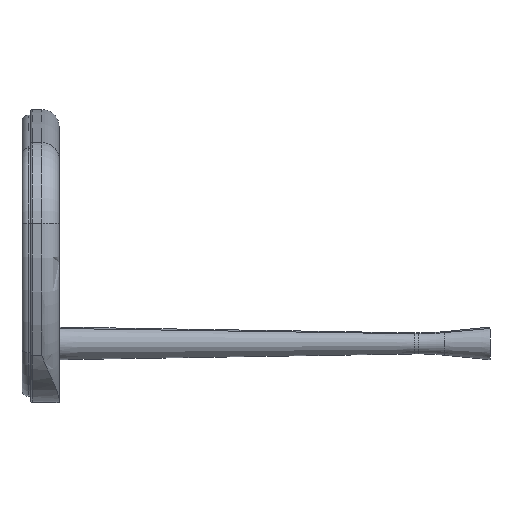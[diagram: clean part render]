
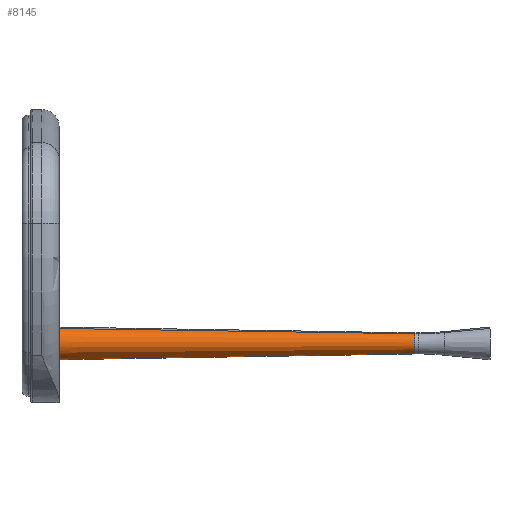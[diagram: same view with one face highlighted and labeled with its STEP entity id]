
A CAD part, left-side view. The second image highlights one B-rep face of the part: STEP entity #8145.
In plain terms, the highlighted conical face has half-angle 0.933 degrees and reference radius 12.283 mm.
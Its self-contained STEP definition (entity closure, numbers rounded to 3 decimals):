
#2 = EDGE_CURVE ( 'NONE', #4428, #617, #9360, .T. ) ;
#228 = ORIENTED_EDGE ( 'NONE', *, *, #10306, .F. ) ;
#263 = FACE_OUTER_BOUND ( 'NONE', #6073, .T. ) ;
#530 = CARTESIAN_POINT ( 'NONE',  ( 0., 87.409, 12.283 ) ) ;
#565 = AXIS2_PLACEMENT_3D ( 'NONE', #15500, #4712, #11879 ) ;
#617 = VERTEX_POINT ( 'NONE', #13902 ) ;
#1726 = LINE ( 'NONE', #530, #3129 ) ;
#2308 = CIRCLE ( 'NONE', #16163, 12.283 ) ;
#3129 = VECTOR ( 'NONE', #10656, 1000. ) ;
#3569 = DIRECTION ( 'NONE',  ( 0., 1., 0. ) ) ;
#3739 = VECTOR ( 'NONE', #7704, 1000. ) ;
#4408 = CARTESIAN_POINT ( 'NONE',  ( 0., 87.409, -12.283 ) ) ;
#4428 = VERTEX_POINT ( 'NONE', #17377 ) ;
#4712 = DIRECTION ( 'NONE',  ( 0., -1., 0. ) ) ;
#5274 = DIRECTION ( 'NONE',  ( 0., 0., -1. ) ) ;
#6073 = EDGE_LOOP ( 'NONE', ( #228, #9069, #9491, #15114 ) ) ;
#7011 = VERTEX_POINT ( 'NONE', #12574 ) ;
#7704 = DIRECTION ( 'NONE',  ( 0., 1., -0.016 ) ) ;
#7741 = DIRECTION ( 'NONE',  ( 0., 0., 1. ) ) ;
#8145 = ADVANCED_FACE ( 'NONE', ( #263 ), #9265, .T. ) ;
#9069 = ORIENTED_EDGE ( 'NONE', *, *, #15145, .F. ) ;
#9265 = CONICAL_SURFACE ( 'NONE', #10871, 12.283, 0.016 ) ;
#9360 = CIRCLE ( 'NONE', #565, 19. ) ;
#9451 = CARTESIAN_POINT ( 'NONE',  ( 0., 87.409, 0. ) ) ;
#9491 = ORIENTED_EDGE ( 'NONE', *, *, #13734, .T. ) ;
#10306 = EDGE_CURVE ( 'NONE', #11212, #617, #13668, .T. ) ;
#10656 = DIRECTION ( 'NONE',  ( 0., 1., 0.016 ) ) ;
#10871 = AXIS2_PLACEMENT_3D ( 'NONE', #14316, #3569, #7741 ) ;
#11212 = VERTEX_POINT ( 'NONE', #11991 ) ;
#11879 = DIRECTION ( 'NONE',  ( 0., 0., -1. ) ) ;
#11991 = CARTESIAN_POINT ( 'NONE',  ( 0., 87.409, -12.283 ) ) ;
#12574 = CARTESIAN_POINT ( 'NONE',  ( 0., 87.409, 12.283 ) ) ;
#13668 = LINE ( 'NONE', #4408, #3739 ) ;
#13734 = EDGE_CURVE ( 'NONE', #7011, #4428, #1726, .T. ) ;
#13902 = CARTESIAN_POINT ( 'NONE',  ( 0., 500., -19. ) ) ;
#14245 = DIRECTION ( 'NONE',  ( 0., -1., 0. ) ) ;
#14316 = CARTESIAN_POINT ( 'NONE',  ( 0., 87.409, 0. ) ) ;
#15114 = ORIENTED_EDGE ( 'NONE', *, *, #2, .T. ) ;
#15145 = EDGE_CURVE ( 'NONE', #7011, #11212, #2308, .T. ) ;
#15500 = CARTESIAN_POINT ( 'NONE',  ( 0., 500., 0. ) ) ;
#16163 = AXIS2_PLACEMENT_3D ( 'NONE', #9451, #14245, #5274 ) ;
#17377 = CARTESIAN_POINT ( 'NONE',  ( 0., 500., 19. ) ) ;
